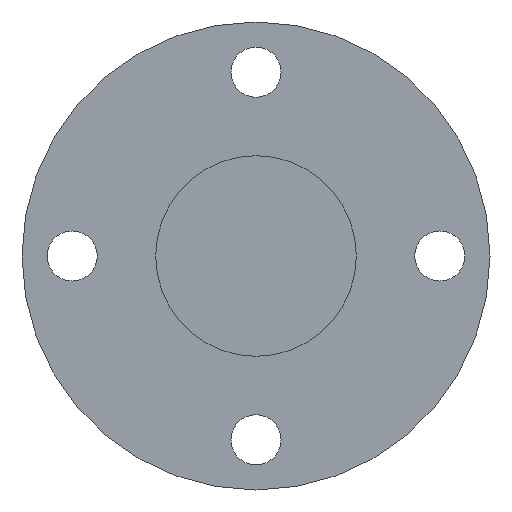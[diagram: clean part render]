
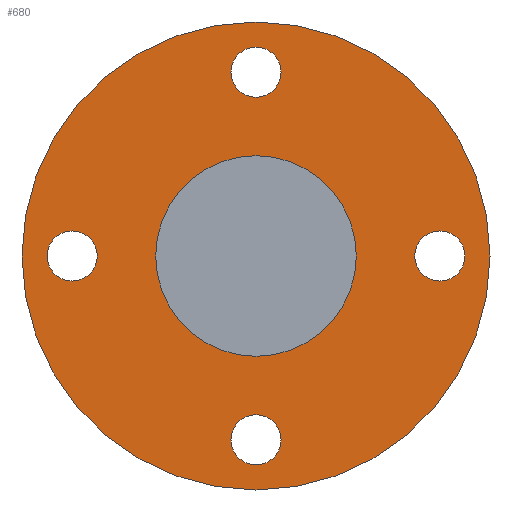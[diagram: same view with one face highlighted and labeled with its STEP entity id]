
A CAD part, left-side view. The second image highlights one B-rep face of the part: STEP entity #680.
In plain terms, the highlighted planar face has unit normal (-1, 0, 0).
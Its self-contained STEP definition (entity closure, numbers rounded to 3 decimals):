
#569=CARTESIAN_POINT('',(120.0,33.0,-4.5));
#570=VERTEX_POINT('',#569);
#571=CARTESIAN_POINT('',(120.0,33.0,0.));
#572=DIRECTION('',(1.0,0.0,0.0));
#573=DIRECTION('',(0.0,0.0,-1.0));
#574=AXIS2_PLACEMENT_3D('',#571,#572,#573);
#575=CIRCLE('',#574,4.5);
#576=EDGE_CURVE('',#570,#570,#575,.T.);
#589=CARTESIAN_POINT('',(120.0,-4.5,-33.0));
#590=VERTEX_POINT('',#589);
#591=CARTESIAN_POINT('',(120.0,0.,-33.0));
#592=DIRECTION('',(1.0,0.0,0.0));
#593=DIRECTION('',(0.0,-1.0,0.0));
#594=AXIS2_PLACEMENT_3D('',#591,#592,#593);
#595=CIRCLE('',#594,4.5);
#596=EDGE_CURVE('',#590,#590,#595,.T.);
#609=CARTESIAN_POINT('',(120.0,-33.0,4.5));
#610=VERTEX_POINT('',#609);
#611=CARTESIAN_POINT('',(120.0,-33.0,0.));
#612=DIRECTION('',(1.0,0.0,0.0));
#613=DIRECTION('',(0.0,0.0,1.0));
#614=AXIS2_PLACEMENT_3D('',#611,#612,#613);
#615=CIRCLE('',#614,4.5);
#616=EDGE_CURVE('',#610,#610,#615,.T.);
#629=CARTESIAN_POINT('',(120.0,4.5,33.0));
#630=VERTEX_POINT('',#629);
#631=CARTESIAN_POINT('',(120.0,0.0,33.0));
#632=DIRECTION('',(1.0,0.0,0.0));
#633=DIRECTION('',(0.0,1.0,0.0));
#634=AXIS2_PLACEMENT_3D('',#631,#632,#633);
#635=CIRCLE('',#634,4.5);
#636=EDGE_CURVE('',#630,#630,#635,.T.);
#641=CARTESIAN_POINT('',(120.0,0.0,30.0));
#642=DIRECTION('',(-1.0,0.0,0.0));
#643=DIRECTION('',(0.0,0.0,1.0));
#644=AXIS2_PLACEMENT_3D('',#641,#642,#643);
#645=PLANE('',#644);
#646=CARTESIAN_POINT('',(120.0,0.0,42.0));
#647=VERTEX_POINT('',#646);
#648=CARTESIAN_POINT('',(120.0,0.0,0.0));
#649=DIRECTION('',(-1.0,0.0,0.0));
#650=DIRECTION('',(0.0,0.0,1.0));
#651=AXIS2_PLACEMENT_3D('',#648,#649,#650);
#652=CIRCLE('',#651,42.0);
#653=EDGE_CURVE('',#647,#647,#652,.T.);
#654=ORIENTED_EDGE('',*,*,#653,.T.);
#655=EDGE_LOOP('',(#654));
#656=FACE_OUTER_BOUND('',#655,.T.);
#657=ORIENTED_EDGE('',*,*,#576,.T.);
#658=EDGE_LOOP('',(#657));
#659=FACE_BOUND('',#658,.T.);
#660=ORIENTED_EDGE('',*,*,#596,.T.);
#661=EDGE_LOOP('',(#660));
#662=FACE_BOUND('',#661,.T.);
#663=ORIENTED_EDGE('',*,*,#616,.T.);
#664=EDGE_LOOP('',(#663));
#665=FACE_BOUND('',#664,.T.);
#666=ORIENTED_EDGE('',*,*,#636,.T.);
#667=EDGE_LOOP('',(#666));
#668=FACE_BOUND('',#667,.T.);
#669=CARTESIAN_POINT('',(120.0,0.0,18.));
#670=VERTEX_POINT('',#669);
#671=CARTESIAN_POINT('',(120.0,0.0,0.0));
#672=DIRECTION('',(-1.0,0.0,0.0));
#673=DIRECTION('',(0.0,0.0,1.0));
#674=AXIS2_PLACEMENT_3D('',#671,#672,#673);
#675=CIRCLE('',#674,18.);
#676=EDGE_CURVE('',#670,#670,#675,.T.);
#677=ORIENTED_EDGE('',*,*,#676,.F.);
#678=EDGE_LOOP('',(#677));
#679=FACE_BOUND('',#678,.T.);
#680=ADVANCED_FACE('',(#656,#659,#662,#665,#668,#679),#645,.T.);
